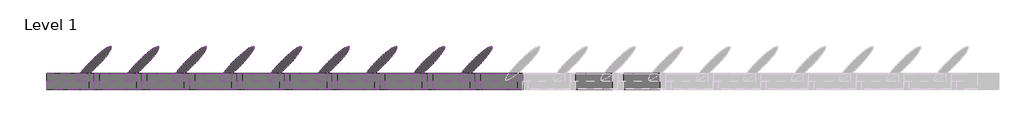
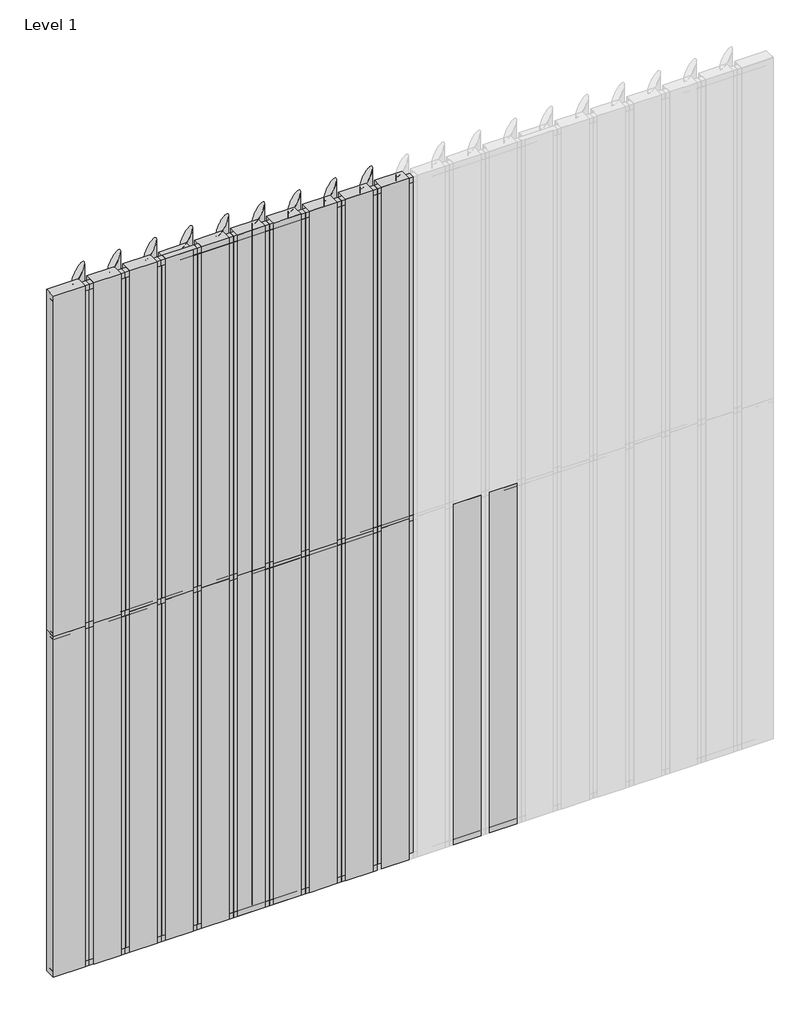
# One storey, part 1 of 2: 47 members, 42 plates.
"""IFC4 building model written with IfcOpenShell, lengths in millimetres."""

from ifc_helpers import new_model, si_unit, origin, place, context, project, spatial, transform, mapped, element, save
from components import rectangular_mullion_58689f85, rectangular_mullion_bcb65166, rectangular_mullion_d9db7a7c, rectangular_mullion_906318ec, empty_system_panel_empty_de177b29, empty_system_panel_empty_7e7673ae, empty_system_panel_empty_eacbfc0b

model = new_model("IFC4")

# Units and contexts
model_context = context("Model", 3, world=origin())
ifc_project = project(units=[si_unit("LENGTHUNIT", "METRE", prefix="MILLI")], contexts=[model_context])

# Site, building, storey
site = spatial("IfcSite", under=ifc_project)
building = spatial("IfcBuilding", under=site)
storey = spatial("IfcBuildingStorey", under=building, Name="Level 1", Elevation=0.0)

# Members
placement = place(None, origin())
rectangular_mullion_shape = rectangular_mullion_58689f85(model_context)
element("IfcMember", 1, ObjectType="Rectangular Mullion : RSen_21_CWM_blade - 300 ellips - 45°_gen_duco projects", at=placement, inside=storey, context=model_context, shape_type="MappedRepresentation", body=[
    mapped(rectangular_mullion_shape, transform((2700.0, 3000.0, 0.0), x_axis=(-1.0, 0.0, 0.0), y_axis=(0.0, 1.0, 0.0), z_axis=(0.0, 0.0, -1.0))),
])
element("IfcMember", 2, ObjectType="Rectangular Mullion : RSen_21_CWM_blade - 300 ellips - 45°_gen_duco projects", at=placement, inside=storey, context=model_context, shape_type="MappedRepresentation", body=[
    mapped(rectangular_mullion_shape, transform((2400.0, 3000.0, 0.0), x_axis=(-1.0, 0.0, 0.0), y_axis=(0.0, 1.0, 0.0), z_axis=(0.0, 0.0, -1.0))),
])
element("IfcMember", 3, ObjectType="Rectangular Mullion : RSen_21_CWM_blade - 300 ellips - 45°_gen_duco projects", at=placement, inside=storey, context=model_context, shape_type="MappedRepresentation", body=[
    mapped(rectangular_mullion_shape, transform((2100.0, 3000.0, 0.0), x_axis=(-1.0, 0.0, 0.0), y_axis=(0.0, 1.0, 0.0), z_axis=(0.0, 0.0, -1.0))),
])
element("IfcMember", 4, ObjectType="Rectangular Mullion : RSen_21_CWM_blade - 300 ellips - 45°_gen_duco projects", at=placement, inside=storey, context=model_context, shape_type="MappedRepresentation", body=[
    mapped(rectangular_mullion_shape, transform((1800.0, 3000.0, 0.0), x_axis=(-1.0, 0.0, 0.0), y_axis=(0.0, 1.0, 0.0), z_axis=(0.0, 0.0, -1.0))),
])
element("IfcMember", 5, ObjectType="Rectangular Mullion : RSen_21_CWM_blade - 300 ellips - 45°_gen_duco projects", at=placement, inside=storey, context=model_context, shape_type="MappedRepresentation", body=[
    mapped(rectangular_mullion_shape, transform((1500.0, 3000.0, 0.0), x_axis=(-1.0, 0.0, 0.0), y_axis=(0.0, 1.0, 0.0), z_axis=(0.0, 0.0, -1.0))),
])
element("IfcMember", 6, ObjectType="Rectangular Mullion : RSen_21_CWM_blade - 300 ellips - 45°_gen_duco projects", at=placement, inside=storey, context=model_context, shape_type="MappedRepresentation", body=[
    mapped(rectangular_mullion_shape, transform((1200.0, 3000.0, 0.0), x_axis=(-1.0, 0.0, 0.0), y_axis=(0.0, 1.0, 0.0), z_axis=(0.0, 0.0, -1.0))),
])
element("IfcMember", 7, ObjectType="Rectangular Mullion : RSen_21_CWM_blade - 300 ellips - 45°_gen_duco projects", at=placement, inside=storey, context=model_context, shape_type="MappedRepresentation", body=[
    mapped(rectangular_mullion_shape, transform((900.0, 3000.0, 0.0), x_axis=(-1.0, 0.0, 0.0), y_axis=(0.0, 1.0, 0.0), z_axis=(0.0, 0.0, -1.0))),
])
element("IfcMember", 8, ObjectType="Rectangular Mullion : RSen_21_CWM_blade - 300 ellips - 45°_gen_duco projects", at=placement, inside=storey, context=model_context, shape_type="MappedRepresentation", body=[
    mapped(rectangular_mullion_shape, transform((600.0, 3000.0, 0.0), x_axis=(-1.0, 0.0, 0.0), y_axis=(0.0, 1.0, 0.0), z_axis=(0.0, 0.0, -1.0))),
])
element("IfcMember", 9, ObjectType="Rectangular Mullion : RSen_21_CWM_blade - 300 ellips - 45°_gen_duco projects", at=placement, inside=storey, context=model_context, shape_type="MappedRepresentation", body=[
    mapped(rectangular_mullion_shape, transform((300.0, 3000.0, 0.0), x_axis=(-1.0, 0.0, 0.0), y_axis=(0.0, 1.0, 0.0), z_axis=(0.0, 0.0, -1.0))),
])
element("IfcMember", 10, ObjectType="Rectangular Mullion : RSen_21_CWM_blade - 300 ellips - 45°_gen_duco projects", at=placement, inside=storey, context=model_context, shape_type="MappedRepresentation", body=[
    mapped(rectangular_mullion_shape, transform((2700.0, 3000.0, 3000.0), x_axis=(-1.0, 0.0, 0.0), y_axis=(0.0, 1.0, 0.0), z_axis=(0.0, 0.0, -1.0))),
])
element("IfcMember", 11, ObjectType="Rectangular Mullion : RSen_21_CWM_blade - 300 ellips - 45°_gen_duco projects", at=placement, inside=storey, context=model_context, shape_type="MappedRepresentation", body=[
    mapped(rectangular_mullion_shape, transform((2400.0, 3000.0, 3000.0), x_axis=(-1.0, 0.0, 0.0), y_axis=(0.0, 1.0, 0.0), z_axis=(0.0, 0.0, -1.0))),
])
element("IfcMember", 12, ObjectType="Rectangular Mullion : RSen_21_CWM_blade - 300 ellips - 45°_gen_duco projects", at=placement, inside=storey, context=model_context, shape_type="MappedRepresentation", body=[
    mapped(rectangular_mullion_shape, transform((2100.0, 3000.0, 3000.0), x_axis=(-1.0, 0.0, 0.0), y_axis=(0.0, 1.0, 0.0), z_axis=(0.0, 0.0, -1.0))),
])
element("IfcMember", 13, ObjectType="Rectangular Mullion : RSen_21_CWM_blade - 300 ellips - 45°_gen_duco projects", at=placement, inside=storey, context=model_context, shape_type="MappedRepresentation", body=[
    mapped(rectangular_mullion_shape, transform((1800.0, 3000.0, 3000.0), x_axis=(-1.0, 0.0, 0.0), y_axis=(0.0, 1.0, 0.0), z_axis=(0.0, 0.0, -1.0))),
])
element("IfcMember", 14, ObjectType="Rectangular Mullion : RSen_21_CWM_blade - 300 ellips - 45°_gen_duco projects", at=placement, inside=storey, context=model_context, shape_type="MappedRepresentation", body=[
    mapped(rectangular_mullion_shape, transform((1500.0, 3000.0, 3000.0), x_axis=(-1.0, 0.0, 0.0), y_axis=(0.0, 1.0, 0.0), z_axis=(0.0, 0.0, -1.0))),
])
element("IfcMember", 15, ObjectType="Rectangular Mullion : RSen_21_CWM_blade - 300 ellips - 45°_gen_duco projects", at=placement, inside=storey, context=model_context, shape_type="MappedRepresentation", body=[
    mapped(rectangular_mullion_shape, transform((1200.0, 3000.0, 3000.0), x_axis=(-1.0, 0.0, 0.0), y_axis=(0.0, 1.0, 0.0), z_axis=(0.0, 0.0, -1.0))),
])
element("IfcMember", 16, ObjectType="Rectangular Mullion : RSen_21_CWM_blade - 300 ellips - 45°_gen_duco projects", at=placement, inside=storey, context=model_context, shape_type="MappedRepresentation", body=[
    mapped(rectangular_mullion_shape, transform((900.0, 3000.0, 3000.0), x_axis=(-1.0, 0.0, 0.0), y_axis=(0.0, 1.0, 0.0), z_axis=(0.0, 0.0, -1.0))),
])
element("IfcMember", 17, ObjectType="Rectangular Mullion : RSen_21_CWM_blade - 300 ellips - 45°_gen_duco projects", at=placement, inside=storey, context=model_context, shape_type="MappedRepresentation", body=[
    mapped(rectangular_mullion_shape, transform((600.0, 3000.0, 3000.0), x_axis=(-1.0, 0.0, 0.0), y_axis=(0.0, 1.0, 0.0), z_axis=(0.0, 0.0, -1.0))),
])
element("IfcMember", 18, ObjectType="Rectangular Mullion : RSen_21_CWM_blade - 300 ellips - 45°_gen_duco projects", at=placement, inside=storey, context=model_context, shape_type="MappedRepresentation", body=[
    mapped(rectangular_mullion_shape, transform((300.0, 3000.0, 3000.0), x_axis=(-1.0, 0.0, 0.0), y_axis=(0.0, 1.0, 0.0), z_axis=(0.0, 0.0, -1.0))),
])
rectangular_mullion_2_shape = rectangular_mullion_bcb65166(model_context)
element("IfcMember", 19, ObjectType="Rectangular Mullion : RSen_21_CWM_support profile 50x50 - left_gen_duco projects", at=placement, inside=storey, context=model_context, shape_type="MappedRepresentation", body=[
    mapped(rectangular_mullion_2_shape, transform((0.0, 3000.0, 6000.0), x_axis=(0.0, 0.0, 1.0), y_axis=(0.0, 1.0, 0.0), z_axis=(-1.0, 0.0, 0.0))),
])
element("IfcMember", 20, ObjectType="Rectangular Mullion : RSen_21_CWM_support profile 50x50 - left_gen_duco projects", at=placement, inside=storey, context=model_context, shape_type="MappedRepresentation", body=[
    mapped(rectangular_mullion_2_shape, transform((2700.0, 3000.0, 6000.0), x_axis=(0.0, 0.0, 1.0), y_axis=(0.0, 1.0, 0.0), z_axis=(-1.0, 0.0, 0.0))),
])
element("IfcMember", 21, ObjectType="Rectangular Mullion : RSen_21_CWM_support profile 50x50 - left_gen_duco projects", at=placement, inside=storey, context=model_context, shape_type="MappedRepresentation", body=[
    mapped(rectangular_mullion_2_shape, transform((2400.0, 3000.0, 6000.0), x_axis=(0.0, 0.0, 1.0), y_axis=(0.0, 1.0, 0.0), z_axis=(-1.0, 0.0, 0.0))),
])
element("IfcMember", 22, ObjectType="Rectangular Mullion : RSen_21_CWM_support profile 50x50 - left_gen_duco projects", at=placement, inside=storey, context=model_context, shape_type="MappedRepresentation", body=[
    mapped(rectangular_mullion_2_shape, transform((2100.0, 3000.0, 6000.0), x_axis=(0.0, 0.0, 1.0), y_axis=(0.0, 1.0, 0.0), z_axis=(-1.0, 0.0, 0.0))),
])
element("IfcMember", 23, ObjectType="Rectangular Mullion : RSen_21_CWM_support profile 50x50 - left_gen_duco projects", at=placement, inside=storey, context=model_context, shape_type="MappedRepresentation", body=[
    mapped(rectangular_mullion_2_shape, transform((1800.0, 3000.0, 6000.0), x_axis=(0.0, 0.0, 1.0), y_axis=(0.0, 1.0, 0.0), z_axis=(-1.0, 0.0, 0.0))),
])
element("IfcMember", 24, ObjectType="Rectangular Mullion : RSen_21_CWM_support profile 50x50 - left_gen_duco projects", at=placement, inside=storey, context=model_context, shape_type="MappedRepresentation", body=[
    mapped(rectangular_mullion_2_shape, transform((1500.0, 3000.0, 6000.0), x_axis=(0.0, 0.0, 1.0), y_axis=(0.0, 1.0, 0.0), z_axis=(-1.0, 0.0, 0.0))),
])
element("IfcMember", 25, ObjectType="Rectangular Mullion : RSen_21_CWM_support profile 50x50 - left_gen_duco projects", at=placement, inside=storey, context=model_context, shape_type="MappedRepresentation", body=[
    mapped(rectangular_mullion_2_shape, transform((1200.0, 3000.0, 6000.0), x_axis=(0.0, 0.0, 1.0), y_axis=(0.0, 1.0, 0.0), z_axis=(-1.0, 0.0, 0.0))),
])
element("IfcMember", 26, ObjectType="Rectangular Mullion : RSen_21_CWM_support profile 50x50 - left_gen_duco projects", at=placement, inside=storey, context=model_context, shape_type="MappedRepresentation", body=[
    mapped(rectangular_mullion_2_shape, transform((900.0, 3000.0, 6000.0), x_axis=(0.0, 0.0, 1.0), y_axis=(0.0, 1.0, 0.0), z_axis=(-1.0, 0.0, 0.0))),
])
element("IfcMember", 27, ObjectType="Rectangular Mullion : RSen_21_CWM_support profile 50x50 - left_gen_duco projects", at=placement, inside=storey, context=model_context, shape_type="MappedRepresentation", body=[
    mapped(rectangular_mullion_2_shape, transform((600.0, 3000.0, 6000.0), x_axis=(0.0, 0.0, 1.0), y_axis=(0.0, 1.0, 0.0), z_axis=(-1.0, 0.0, 0.0))),
])
element("IfcMember", 28, ObjectType="Rectangular Mullion : RSen_21_CWM_support profile 50x50 - left_gen_duco projects", at=placement, inside=storey, context=model_context, shape_type="MappedRepresentation", body=[
    mapped(rectangular_mullion_2_shape, transform((300.0, 3000.0, 6000.0), x_axis=(0.0, 0.0, 1.0), y_axis=(0.0, 1.0, 0.0), z_axis=(-1.0, 0.0, 0.0))),
])
rectangular_mullion_3_shape = rectangular_mullion_d9db7a7c(model_context)
element("IfcMember", 29, ObjectType="Rectangular Mullion : RSen_21_CWM_support profile 50x50 - right_gen_duco projects", at=placement, inside=storey, context=model_context, shape_type="MappedRepresentation", body=[
    mapped(rectangular_mullion_3_shape, transform((2700.0, 3000.0, 0.0), x_axis=(0.0, 0.0, -1.0), y_axis=(0.0, 1.0, 0.0), z_axis=(1.0, 0.0, 0.0))),
])
element("IfcMember", 30, ObjectType="Rectangular Mullion : RSen_21_CWM_support profile 50x50 - right_gen_duco projects", at=placement, inside=storey, context=model_context, shape_type="MappedRepresentation", body=[
    mapped(rectangular_mullion_3_shape, transform((2400.0, 3000.0, 0.0), x_axis=(0.0, 0.0, -1.0), y_axis=(0.0, 1.0, 0.0), z_axis=(1.0, 0.0, 0.0))),
])
element("IfcMember", 31, ObjectType="Rectangular Mullion : RSen_21_CWM_support profile 50x50 - right_gen_duco projects", at=placement, inside=storey, context=model_context, shape_type="MappedRepresentation", body=[
    mapped(rectangular_mullion_3_shape, transform((2100.0, 3000.0, 0.0), x_axis=(0.0, 0.0, -1.0), y_axis=(0.0, 1.0, 0.0), z_axis=(1.0, 0.0, 0.0))),
])
element("IfcMember", 32, ObjectType="Rectangular Mullion : RSen_21_CWM_support profile 50x50 - right_gen_duco projects", at=placement, inside=storey, context=model_context, shape_type="MappedRepresentation", body=[
    mapped(rectangular_mullion_3_shape, transform((1800.0, 3000.0, 0.0), x_axis=(0.0, 0.0, -1.0), y_axis=(0.0, 1.0, 0.0), z_axis=(1.0, 0.0, 0.0))),
])
element("IfcMember", 33, ObjectType="Rectangular Mullion : RSen_21_CWM_support profile 50x50 - right_gen_duco projects", at=placement, inside=storey, context=model_context, shape_type="MappedRepresentation", body=[
    mapped(rectangular_mullion_3_shape, transform((1500.0, 3000.0, 0.0), x_axis=(0.0, 0.0, -1.0), y_axis=(0.0, 1.0, 0.0), z_axis=(1.0, 0.0, 0.0))),
])
element("IfcMember", 34, ObjectType="Rectangular Mullion : RSen_21_CWM_support profile 50x50 - right_gen_duco projects", at=placement, inside=storey, context=model_context, shape_type="MappedRepresentation", body=[
    mapped(rectangular_mullion_3_shape, transform((1200.0, 3000.0, 0.0), x_axis=(0.0, 0.0, -1.0), y_axis=(0.0, 1.0, 0.0), z_axis=(1.0, 0.0, 0.0))),
])
element("IfcMember", 35, ObjectType="Rectangular Mullion : RSen_21_CWM_support profile 50x50 - right_gen_duco projects", at=placement, inside=storey, context=model_context, shape_type="MappedRepresentation", body=[
    mapped(rectangular_mullion_3_shape, transform((900.0, 3000.0, 0.0), x_axis=(0.0, 0.0, -1.0), y_axis=(0.0, 1.0, 0.0), z_axis=(1.0, 0.0, 0.0))),
])
element("IfcMember", 36, ObjectType="Rectangular Mullion : RSen_21_CWM_support profile 50x50 - right_gen_duco projects", at=placement, inside=storey, context=model_context, shape_type="MappedRepresentation", body=[
    mapped(rectangular_mullion_3_shape, transform((600.0, 3000.0, 0.0), x_axis=(0.0, 0.0, -1.0), y_axis=(0.0, 1.0, 0.0), z_axis=(1.0, 0.0, 0.0))),
])
element("IfcMember", 37, ObjectType="Rectangular Mullion : RSen_21_CWM_support profile 50x50 - right_gen_duco projects", at=placement, inside=storey, context=model_context, shape_type="MappedRepresentation", body=[
    mapped(rectangular_mullion_3_shape, transform((300.0, 3000.0, 0.0), x_axis=(0.0, 0.0, -1.0), y_axis=(0.0, 1.0, 0.0), z_axis=(1.0, 0.0, 0.0))),
])
rectangular_mullion_4_shape = rectangular_mullion_906318ec(model_context)
element("IfcMember", 38, ObjectType="Rectangular Mullion : RSen_21_CWM_support profile 50x50_gen_duco projects", at=placement, inside=storey, context=model_context, shape_type="MappedRepresentation", body=[
    mapped(rectangular_mullion_4_shape, transform((2700.0, 3000.0, 3000.0), x_axis=(0.0, 0.0, 1.0), y_axis=(0.0, 1.0, 0.0), z_axis=(-1.0, 0.0, 0.0))),
])
element("IfcMember", 39, ObjectType="Rectangular Mullion : RSen_21_CWM_support profile 50x50_gen_duco projects", at=placement, inside=storey, context=model_context, shape_type="MappedRepresentation", body=[
    mapped(rectangular_mullion_4_shape, transform((2400.0, 3000.0, 3000.0), x_axis=(0.0, 0.0, 1.0), y_axis=(0.0, 1.0, 0.0), z_axis=(-1.0, 0.0, 0.0))),
])
element("IfcMember", 40, ObjectType="Rectangular Mullion : RSen_21_CWM_support profile 50x50_gen_duco projects", at=placement, inside=storey, context=model_context, shape_type="MappedRepresentation", body=[
    mapped(rectangular_mullion_4_shape, transform((2100.0, 3000.0, 3000.0), x_axis=(0.0, 0.0, 1.0), y_axis=(0.0, 1.0, 0.0), z_axis=(-1.0, 0.0, 0.0))),
])
element("IfcMember", 41, ObjectType="Rectangular Mullion : RSen_21_CWM_support profile 50x50_gen_duco projects", at=placement, inside=storey, context=model_context, shape_type="MappedRepresentation", body=[
    mapped(rectangular_mullion_4_shape, transform((1800.0, 3000.0, 3000.0), x_axis=(0.0, 0.0, 1.0), y_axis=(0.0, 1.0, 0.0), z_axis=(-1.0, 0.0, 0.0))),
])
element("IfcMember", 42, ObjectType="Rectangular Mullion : RSen_21_CWM_support profile 50x50_gen_duco projects", at=placement, inside=storey, context=model_context, shape_type="MappedRepresentation", body=[
    mapped(rectangular_mullion_4_shape, transform((1500.0, 3000.0, 3000.0), x_axis=(0.0, 0.0, 1.0), y_axis=(0.0, 1.0, 0.0), z_axis=(-1.0, 0.0, 0.0))),
])
element("IfcMember", 43, ObjectType="Rectangular Mullion : RSen_21_CWM_support profile 50x50_gen_duco projects", at=placement, inside=storey, context=model_context, shape_type="MappedRepresentation", body=[
    mapped(rectangular_mullion_4_shape, transform((1200.0, 3000.0, 3000.0), x_axis=(0.0, 0.0, 1.0), y_axis=(0.0, 1.0, 0.0), z_axis=(-1.0, 0.0, 0.0))),
])
element("IfcMember", 44, ObjectType="Rectangular Mullion : RSen_21_CWM_support profile 50x50_gen_duco projects", at=placement, inside=storey, context=model_context, shape_type="MappedRepresentation", body=[
    mapped(rectangular_mullion_4_shape, transform((900.0, 3000.0, 3000.0), x_axis=(0.0, 0.0, 1.0), y_axis=(0.0, 1.0, 0.0), z_axis=(-1.0, 0.0, 0.0))),
])
element("IfcMember", 45, ObjectType="Rectangular Mullion : RSen_21_CWM_support profile 50x50_gen_duco projects", at=placement, inside=storey, context=model_context, shape_type="MappedRepresentation", body=[
    mapped(rectangular_mullion_4_shape, transform((600.0, 3000.0, 3000.0), x_axis=(0.0, 0.0, 1.0), y_axis=(0.0, 1.0, 0.0), z_axis=(-1.0, 0.0, 0.0))),
])
element("IfcMember", 46, ObjectType="Rectangular Mullion : RSen_21_CWM_support profile 50x50_gen_duco projects", at=placement, inside=storey, context=model_context, shape_type="MappedRepresentation", body=[
    mapped(rectangular_mullion_4_shape, transform((300.0, 3000.0, 3000.0), x_axis=(0.0, 0.0, 1.0), y_axis=(0.0, 1.0, 0.0), z_axis=(-1.0, 0.0, 0.0))),
])
element("IfcMember", 47, ObjectType="Rectangular Mullion : RSen_21_CWM_support profile 50x50_gen_duco projects", at=placement, inside=storey, context=model_context, shape_type="MappedRepresentation", body=[
    mapped(rectangular_mullion_4_shape, transform((0.0, 3000.0, 3000.0), x_axis=(0.0, 0.0, 1.0), y_axis=(0.0, 1.0, 0.0), z_axis=(-1.0, 0.0, 0.0))),
])

# Plates
empty_system_panel_empty_shape = empty_system_panel_empty_de177b29(model_context)
element("IfcPlate", 48, ObjectType="Empty System Panel : Empty", at=placement, inside=storey, context=model_context, shape_type="MappedRepresentation", body=[
    mapped(empty_system_panel_empty_shape, transform((132.3223305, 3000.0, 0.0), x_axis=(-1.0, 0.0, 0.0), y_axis=(0.0, -1.0, 0.0), z_axis=(0.0, 0.0, 1.0))),
])
element("IfcPlate", 49, ObjectType="Empty System Panel : Empty", at=placement, inside=storey, context=model_context, shape_type="MappedRepresentation", body=[
    mapped(empty_system_panel_empty_shape, transform((132.3223305, 3000.0, 3000.0), x_axis=(-1.0, 0.0, 0.0), y_axis=(0.0, -1.0, 0.0), z_axis=(0.0, 0.0, 1.0))),
])
empty_system_panel_empty_2_shape = empty_system_panel_empty_7e7673ae(model_context)
element("IfcPlate", 50, ObjectType="Empty System Panel : Empty", at=placement, inside=storey, context=model_context, shape_type="MappedRepresentation", body=[
    mapped(empty_system_panel_empty_2_shape, transform((3750.0, 3000.0, 0.0), x_axis=(-1.0, 0.0, 0.0), y_axis=(0.0, -1.0, 0.0), z_axis=(0.0, 0.0, 1.0))),
])
element("IfcPlate", 51, ObjectType="Empty System Panel : Empty", at=placement, inside=storey, context=model_context, shape_type="MappedRepresentation", body=[
    mapped(empty_system_panel_empty_2_shape, transform((3450.0, 3000.0, 0.0), x_axis=(-1.0, 0.0, 0.0), y_axis=(0.0, -1.0, 0.0), z_axis=(0.0, 0.0, 1.0))),
])
element("IfcPlate", 52, ObjectType="Empty System Panel : Empty", at=placement, inside=storey, context=model_context, shape_type="MappedRepresentation", body=[
    mapped(empty_system_panel_empty_2_shape, transform((2850.0, 3000.0, 0.0), x_axis=(-1.0, 0.0, 0.0), y_axis=(0.0, -1.0, 0.0), z_axis=(0.0, 0.0, 1.0))),
])
element("IfcPlate", 53, ObjectType="Empty System Panel : Empty", at=placement, inside=storey, context=model_context, shape_type="MappedRepresentation", body=[
    mapped(empty_system_panel_empty_2_shape, transform((2550.0, 3000.0, 0.0), x_axis=(-1.0, 0.0, 0.0), y_axis=(0.0, -1.0, 0.0), z_axis=(0.0, 0.0, 1.0))),
])
element("IfcPlate", 54, ObjectType="Empty System Panel : Empty", at=placement, inside=storey, context=model_context, shape_type="MappedRepresentation", body=[
    mapped(empty_system_panel_empty_2_shape, transform((2250.0, 3000.0, 0.0), x_axis=(-1.0, 0.0, 0.0), y_axis=(0.0, -1.0, 0.0), z_axis=(0.0, 0.0, 1.0))),
])
element("IfcPlate", 55, ObjectType="Empty System Panel : Empty", at=placement, inside=storey, context=model_context, shape_type="MappedRepresentation", body=[
    mapped(empty_system_panel_empty_2_shape, transform((1950.0, 3000.0, 0.0), x_axis=(-1.0, 0.0, 0.0), y_axis=(0.0, -1.0, 0.0), z_axis=(0.0, 0.0, 1.0))),
])
element("IfcPlate", 56, ObjectType="Empty System Panel : Empty", at=placement, inside=storey, context=model_context, shape_type="MappedRepresentation", body=[
    mapped(empty_system_panel_empty_2_shape, transform((1650.0, 3000.0, 0.0), x_axis=(-1.0, 0.0, 0.0), y_axis=(0.0, -1.0, 0.0), z_axis=(0.0, 0.0, 1.0))),
])
element("IfcPlate", 57, ObjectType="Empty System Panel : Empty", at=placement, inside=storey, context=model_context, shape_type="MappedRepresentation", body=[
    mapped(empty_system_panel_empty_2_shape, transform((1350.0, 3000.0, 0.0), x_axis=(-1.0, 0.0, 0.0), y_axis=(0.0, -1.0, 0.0), z_axis=(0.0, 0.0, 1.0))),
])
element("IfcPlate", 58, ObjectType="Empty System Panel : Empty", at=placement, inside=storey, context=model_context, shape_type="MappedRepresentation", body=[
    mapped(empty_system_panel_empty_2_shape, transform((1050.0, 3000.0, 0.0), x_axis=(-1.0, 0.0, 0.0), y_axis=(0.0, -1.0, 0.0), z_axis=(0.0, 0.0, 1.0))),
])
element("IfcPlate", 59, ObjectType="Empty System Panel : Empty", at=placement, inside=storey, context=model_context, shape_type="MappedRepresentation", body=[
    mapped(empty_system_panel_empty_2_shape, transform((750.0, 3000.0, 0.0), x_axis=(-1.0, 0.0, 0.0), y_axis=(0.0, -1.0, 0.0), z_axis=(0.0, 0.0, 1.0))),
])
element("IfcPlate", 60, ObjectType="Empty System Panel : Empty", at=placement, inside=storey, context=model_context, shape_type="MappedRepresentation", body=[
    mapped(empty_system_panel_empty_2_shape, transform((450.0, 3000.0, 0.0), x_axis=(-1.0, 0.0, 0.0), y_axis=(0.0, -1.0, 0.0), z_axis=(0.0, 0.0, 1.0))),
])
element("IfcPlate", 61, ObjectType="Empty System Panel : Empty", at=placement, inside=storey, context=model_context, shape_type="MappedRepresentation", body=[
    mapped(empty_system_panel_empty_2_shape, transform((2850.0, 3000.0, 3000.0), x_axis=(-1.0, 0.0, 0.0), y_axis=(0.0, -1.0, 0.0), z_axis=(0.0, 0.0, 1.0))),
])
element("IfcPlate", 62, ObjectType="Empty System Panel : Empty", at=placement, inside=storey, context=model_context, shape_type="MappedRepresentation", body=[
    mapped(empty_system_panel_empty_2_shape, transform((2550.0, 3000.0, 3000.0), x_axis=(-1.0, 0.0, 0.0), y_axis=(0.0, -1.0, 0.0), z_axis=(0.0, 0.0, 1.0))),
])
element("IfcPlate", 63, ObjectType="Empty System Panel : Empty", at=placement, inside=storey, context=model_context, shape_type="MappedRepresentation", body=[
    mapped(empty_system_panel_empty_2_shape, transform((2250.0, 3000.0, 3000.0), x_axis=(-1.0, 0.0, 0.0), y_axis=(0.0, -1.0, 0.0), z_axis=(0.0, 0.0, 1.0))),
])
element("IfcPlate", 64, ObjectType="Empty System Panel : Empty", at=placement, inside=storey, context=model_context, shape_type="MappedRepresentation", body=[
    mapped(empty_system_panel_empty_2_shape, transform((1950.0, 3000.0, 3000.0), x_axis=(-1.0, 0.0, 0.0), y_axis=(0.0, -1.0, 0.0), z_axis=(0.0, 0.0, 1.0))),
])
element("IfcPlate", 65, ObjectType="Empty System Panel : Empty", at=placement, inside=storey, context=model_context, shape_type="MappedRepresentation", body=[
    mapped(empty_system_panel_empty_2_shape, transform((1650.0, 3000.0, 3000.0), x_axis=(-1.0, 0.0, 0.0), y_axis=(0.0, -1.0, 0.0), z_axis=(0.0, 0.0, 1.0))),
])
element("IfcPlate", 66, ObjectType="Empty System Panel : Empty", at=placement, inside=storey, context=model_context, shape_type="MappedRepresentation", body=[
    mapped(empty_system_panel_empty_2_shape, transform((1350.0, 3000.0, 3000.0), x_axis=(-1.0, 0.0, 0.0), y_axis=(0.0, -1.0, 0.0), z_axis=(0.0, 0.0, 1.0))),
])
element("IfcPlate", 67, ObjectType="Empty System Panel : Empty", at=placement, inside=storey, context=model_context, shape_type="MappedRepresentation", body=[
    mapped(empty_system_panel_empty_2_shape, transform((1050.0, 3000.0, 3000.0), x_axis=(-1.0, 0.0, 0.0), y_axis=(0.0, -1.0, 0.0), z_axis=(0.0, 0.0, 1.0))),
])
element("IfcPlate", 68, ObjectType="Empty System Panel : Empty", at=placement, inside=storey, context=model_context, shape_type="MappedRepresentation", body=[
    mapped(empty_system_panel_empty_2_shape, transform((750.0, 3000.0, 3000.0), x_axis=(-1.0, 0.0, 0.0), y_axis=(0.0, -1.0, 0.0), z_axis=(0.0, 0.0, 1.0))),
])
element("IfcPlate", 69, ObjectType="Empty System Panel : Empty", at=placement, inside=storey, context=model_context, shape_type="MappedRepresentation", body=[
    mapped(empty_system_panel_empty_2_shape, transform((450.0, 3000.0, 3000.0), x_axis=(-1.0, 0.0, 0.0), y_axis=(0.0, -1.0, 0.0), z_axis=(0.0, 0.0, 1.0))),
])
empty_system_panel_empty_3_shape = empty_system_panel_empty_eacbfc0b(model_context)
element("IfcPlate", 70, ObjectType="Empty System Panel : Empty", at=placement, inside=storey, context=model_context, shape_type="MappedRepresentation", body=[
    mapped(empty_system_panel_empty_3_shape, transform((2850.0, 3000.0, 50.0), x_axis=(-1.0, 0.0, 0.0), y_axis=(0.0, -1.0, 0.0), z_axis=(0.0, 0.0, 1.0))),
])
element("IfcPlate", 71, ObjectType="Empty System Panel : Empty", at=placement, inside=storey, context=model_context, shape_type="MappedRepresentation", body=[
    mapped(empty_system_panel_empty_3_shape, transform((2550.0, 3000.0, 50.0), x_axis=(-1.0, 0.0, 0.0), y_axis=(0.0, -1.0, 0.0), z_axis=(0.0, 0.0, 1.0))),
])
element("IfcPlate", 72, ObjectType="Empty System Panel : Empty", at=placement, inside=storey, context=model_context, shape_type="MappedRepresentation", body=[
    mapped(empty_system_panel_empty_3_shape, transform((2250.0, 3000.0, 50.0), x_axis=(-1.0, 0.0, 0.0), y_axis=(0.0, -1.0, 0.0), z_axis=(0.0, 0.0, 1.0))),
])
element("IfcPlate", 73, ObjectType="Empty System Panel : Empty", at=placement, inside=storey, context=model_context, shape_type="MappedRepresentation", body=[
    mapped(empty_system_panel_empty_3_shape, transform((1950.0, 3000.0, 50.0), x_axis=(-1.0, 0.0, 0.0), y_axis=(0.0, -1.0, 0.0), z_axis=(0.0, 0.0, 1.0))),
])
element("IfcPlate", 74, ObjectType="Empty System Panel : Empty", at=placement, inside=storey, context=model_context, shape_type="MappedRepresentation", body=[
    mapped(empty_system_panel_empty_3_shape, transform((1650.0, 3000.0, 50.0), x_axis=(-1.0, 0.0, 0.0), y_axis=(0.0, -1.0, 0.0), z_axis=(0.0, 0.0, 1.0))),
])
element("IfcPlate", 75, ObjectType="Empty System Panel : Empty", at=placement, inside=storey, context=model_context, shape_type="MappedRepresentation", body=[
    mapped(empty_system_panel_empty_3_shape, transform((1350.0, 3000.0, 50.0), x_axis=(-1.0, 0.0, 0.0), y_axis=(0.0, -1.0, 0.0), z_axis=(0.0, 0.0, 1.0))),
])
element("IfcPlate", 76, ObjectType="Empty System Panel : Empty", at=placement, inside=storey, context=model_context, shape_type="MappedRepresentation", body=[
    mapped(empty_system_panel_empty_3_shape, transform((1050.0, 3000.0, 50.0), x_axis=(-1.0, 0.0, 0.0), y_axis=(0.0, -1.0, 0.0), z_axis=(0.0, 0.0, 1.0))),
])
element("IfcPlate", 77, ObjectType="Empty System Panel : Empty", at=placement, inside=storey, context=model_context, shape_type="MappedRepresentation", body=[
    mapped(empty_system_panel_empty_3_shape, transform((750.0, 3000.0, 50.0), x_axis=(-1.0, 0.0, 0.0), y_axis=(0.0, -1.0, 0.0), z_axis=(0.0, 0.0, 1.0))),
])
element("IfcPlate", 78, ObjectType="Empty System Panel : Empty", at=placement, inside=storey, context=model_context, shape_type="MappedRepresentation", body=[
    mapped(empty_system_panel_empty_3_shape, transform((450.0, 3000.0, 50.0), x_axis=(-1.0, 0.0, 0.0), y_axis=(0.0, -1.0, 0.0), z_axis=(0.0, 0.0, 1.0))),
])
element("IfcPlate", 79, ObjectType="Empty System Panel : Empty", at=placement, inside=storey, context=model_context, shape_type="MappedRepresentation", body=[
    mapped(empty_system_panel_empty_3_shape, transform((150.0, 3000.0, 50.0), x_axis=(-1.0, 0.0, 0.0), y_axis=(0.0, -1.0, 0.0), z_axis=(0.0, 0.0, 1.0))),
])
element("IfcPlate", 80, ObjectType="Empty System Panel : Empty", at=placement, inside=storey, context=model_context, shape_type="MappedRepresentation", body=[
    mapped(empty_system_panel_empty_3_shape, transform((2850.0, 3000.0, 3025.0), x_axis=(-1.0, 0.0, 0.0), y_axis=(0.0, -1.0, 0.0), z_axis=(0.0, 0.0, 1.0))),
])
element("IfcPlate", 81, ObjectType="Empty System Panel : Empty", at=placement, inside=storey, context=model_context, shape_type="MappedRepresentation", body=[
    mapped(empty_system_panel_empty_3_shape, transform((2550.0, 3000.0, 3025.0), x_axis=(-1.0, 0.0, 0.0), y_axis=(0.0, -1.0, 0.0), z_axis=(0.0, 0.0, 1.0))),
])
element("IfcPlate", 82, ObjectType="Empty System Panel : Empty", at=placement, inside=storey, context=model_context, shape_type="MappedRepresentation", body=[
    mapped(empty_system_panel_empty_3_shape, transform((2250.0, 3000.0, 3025.0), x_axis=(-1.0, 0.0, 0.0), y_axis=(0.0, -1.0, 0.0), z_axis=(0.0, 0.0, 1.0))),
])
element("IfcPlate", 83, ObjectType="Empty System Panel : Empty", at=placement, inside=storey, context=model_context, shape_type="MappedRepresentation", body=[
    mapped(empty_system_panel_empty_3_shape, transform((1950.0, 3000.0, 3025.0), x_axis=(-1.0, 0.0, 0.0), y_axis=(0.0, -1.0, 0.0), z_axis=(0.0, 0.0, 1.0))),
])
element("IfcPlate", 84, ObjectType="Empty System Panel : Empty", at=placement, inside=storey, context=model_context, shape_type="MappedRepresentation", body=[
    mapped(empty_system_panel_empty_3_shape, transform((1650.0, 3000.0, 3025.0), x_axis=(-1.0, 0.0, 0.0), y_axis=(0.0, -1.0, 0.0), z_axis=(0.0, 0.0, 1.0))),
])
element("IfcPlate", 85, ObjectType="Empty System Panel : Empty", at=placement, inside=storey, context=model_context, shape_type="MappedRepresentation", body=[
    mapped(empty_system_panel_empty_3_shape, transform((1350.0, 3000.0, 3025.0), x_axis=(-1.0, 0.0, 0.0), y_axis=(0.0, -1.0, 0.0), z_axis=(0.0, 0.0, 1.0))),
])
element("IfcPlate", 86, ObjectType="Empty System Panel : Empty", at=placement, inside=storey, context=model_context, shape_type="MappedRepresentation", body=[
    mapped(empty_system_panel_empty_3_shape, transform((1050.0, 3000.0, 3025.0), x_axis=(-1.0, 0.0, 0.0), y_axis=(0.0, -1.0, 0.0), z_axis=(0.0, 0.0, 1.0))),
])
element("IfcPlate", 87, ObjectType="Empty System Panel : Empty", at=placement, inside=storey, context=model_context, shape_type="MappedRepresentation", body=[
    mapped(empty_system_panel_empty_3_shape, transform((750.0, 3000.0, 3025.0), x_axis=(-1.0, 0.0, 0.0), y_axis=(0.0, -1.0, 0.0), z_axis=(0.0, 0.0, 1.0))),
])
element("IfcPlate", 88, ObjectType="Empty System Panel : Empty", at=placement, inside=storey, context=model_context, shape_type="MappedRepresentation", body=[
    mapped(empty_system_panel_empty_3_shape, transform((450.0, 3000.0, 3025.0), x_axis=(-1.0, 0.0, 0.0), y_axis=(0.0, -1.0, 0.0), z_axis=(0.0, 0.0, 1.0))),
])
element("IfcPlate", 89, ObjectType="Empty System Panel : Empty", at=placement, inside=storey, context=model_context, shape_type="MappedRepresentation", body=[
    mapped(empty_system_panel_empty_3_shape, transform((150.0, 3000.0, 3025.0), x_axis=(-1.0, 0.0, 0.0), y_axis=(0.0, -1.0, 0.0), z_axis=(0.0, 0.0, 1.0))),
])

save(model, "model.ifc")
